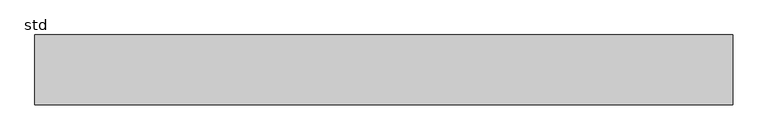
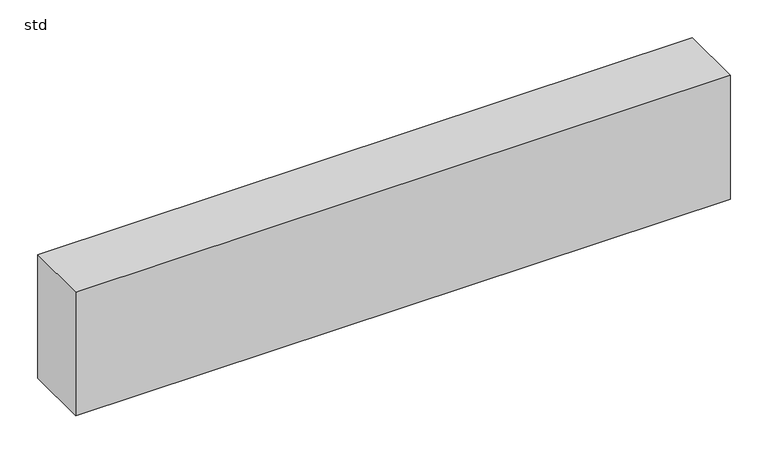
"""IFC4 building model written with IfcOpenShell, lengths in millimetres: proxy geometry, 300_41_ISR_lb_rollaag : std."""

from ifc_helpers import new_model, si_unit, origin, origin_with_axes, place, context, project, spatial, polyline, outline, extrude, source, transform, mapped, element, save


def std_9d51e7c5(model_context):
    return source(origin(), model_context, "Body", "SweptSolid", [
        extrude(outline(polyline([(-500.0, 0.0), (-500.0, 100.0), (500.0, 100.0), (500.0, 0.0), (-500.0, 0.0)])), origin_with_axes(), (0.0, 0.0, 1.0), 200.0),
    ])


if __name__ == "__main__":
    model = new_model("IFC4")
    model_context = context("Model", 3, world=origin())
    ifc_project = project(units=[si_unit("LENGTHUNIT", "METRE", prefix="MILLI")], contexts=[model_context])
    site = spatial("IfcSite", under=ifc_project)
    building = spatial("IfcBuilding", under=site)
    placement = place(None, origin())
    std_shape = std_9d51e7c5(model_context)
    element("IfcBuildingElementProxy", 1, Name="300_41_ISR_lb_rollaag : std", ObjectType="300_41_ISR_lb_rollaag : std", at=placement, inside=building, context=model_context, shape_type="MappedRepresentation", body=[
        mapped(std_shape, transform((0.0, 0.0, 0.0), x_axis=(1.0, 0.0, 0.0), y_axis=(0.0, 1.0, 0.0), z_axis=(0.0, 0.0, 1.0))),
    ])
    save(model, "model.ifc")
